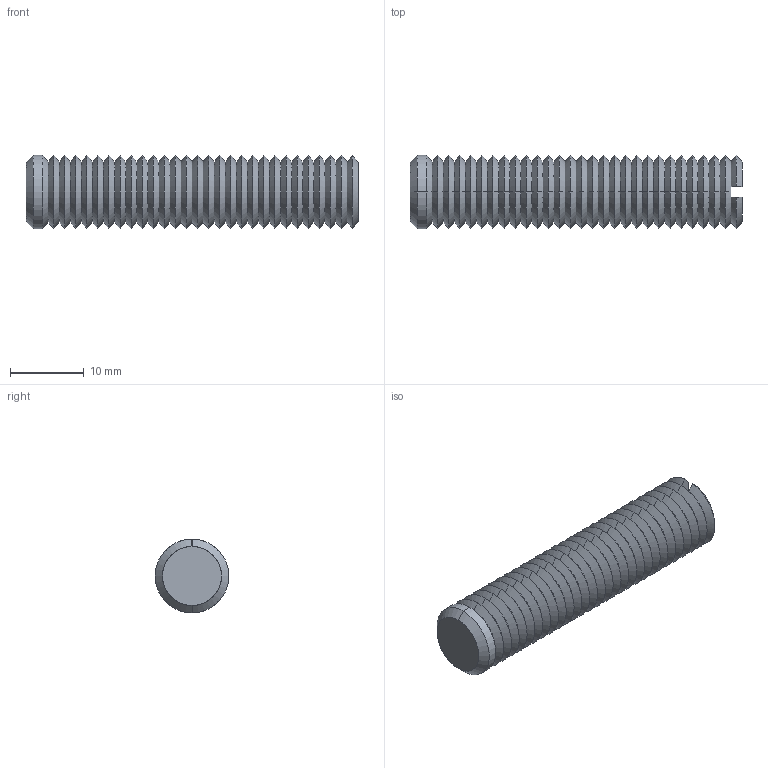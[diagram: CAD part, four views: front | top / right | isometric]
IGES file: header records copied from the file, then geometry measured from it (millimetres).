
Start section: SolidWorks IGES file using analytic representation for surfaces
Global section: file name: C:\Documents and Settings\IANO\Desktop\Temp File\Process pending\EXISTING\34300_v2\34300_v2_20170622_IGES\34300.W0104.igs; native system: SolidWorks 2009; preprocessor: SolidWorks 2009; author: IANO; date: 170622.094019; units: millimetre
Bounding box: 45 x 10 x 10 mm (x, y, z)
Surface area: 2148.5 mm2 (no closed solid volume)
Topology: 0 solids, 0 shells, 124 faces, 560 edges, 560 vertices
Faces by surface type: revolution 118, bspline 6
